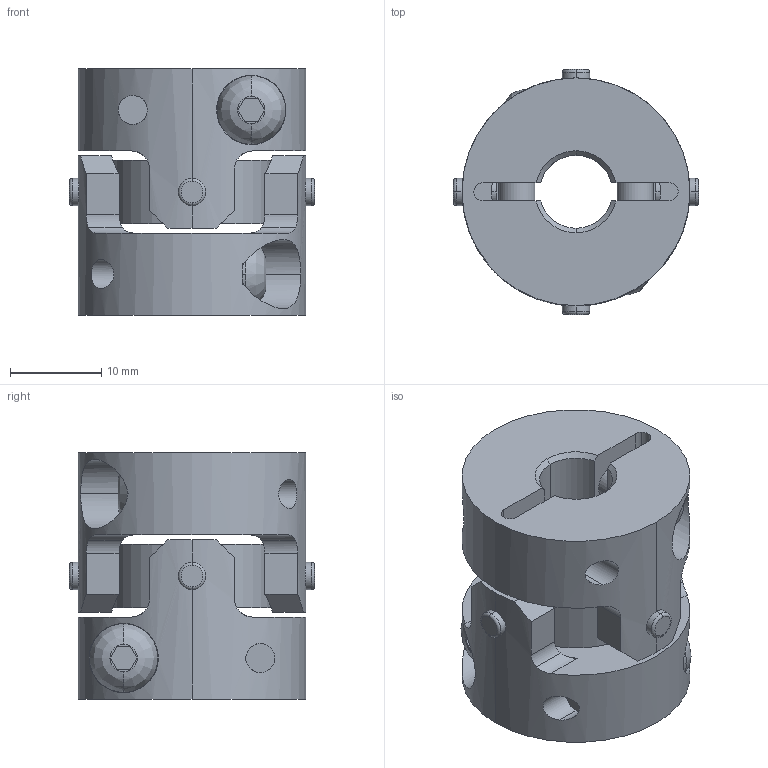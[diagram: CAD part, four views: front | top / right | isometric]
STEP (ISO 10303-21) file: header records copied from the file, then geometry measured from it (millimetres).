
FILE_DESCRIPTION((''),'2;1');
FILE_NAME('UA-25C-8×9.525.stp','2013-05-16T09:26:55',(''),(''),'AutoCAD STEP 2000i','AutoCAD 2000i',', , ');
FILE_SCHEMA(('CONFIG_CONTROL_DESIGN'));
Length unit declared in the file: millimetre
Products named in the file (7): UA-25C-5×9; 忣兜1; UA-2502-D09; BTN-M4; UA-2502-D05-1; UA-2502-D05; UA25-SEN
Assembly tree (8 placements, depth 3):
  UA-25C-5×9
    忣兜1
    UA-2502-D09
      BTN-M4
    UA-2502-D05-1
      BTN-M4
    UA-2502-D05
      BTN-M4
    UA25-SEN
Bounding box: 26.89 x 26.89 x 27 mm (x, y, z)
Volume: 8958.7 mm3; surface area: 6368.7 mm2
Topology: 1 solids, 1 shells, 208 faces, 562 edges, 368 vertices
Faces by surface type: cylinder 96, plane 80, cone 16, bspline 8, torus 8
Entity records: 8385 total; most frequent: CARTESIAN_POINT 2983, ORIENTED_EDGE 1124, DIRECTION 1084, EDGE_CURVE 562, AXIS2_PLACEMENT_3D 417, VERTEX_POINT 368, VECTOR 250, LINE 250
